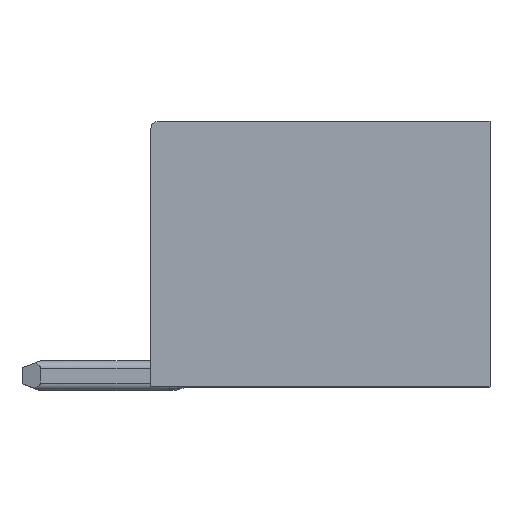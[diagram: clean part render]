
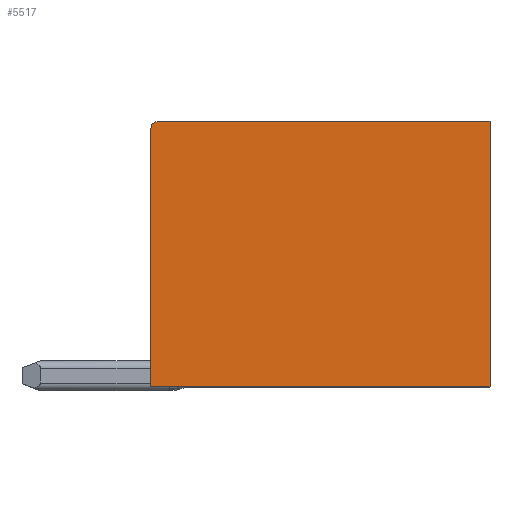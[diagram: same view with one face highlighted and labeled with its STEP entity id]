
A CAD part, top view. The second image highlights one B-rep face of the part: STEP entity #5517.
In plain terms, the highlighted planar face has unit normal (0, 0, 1).
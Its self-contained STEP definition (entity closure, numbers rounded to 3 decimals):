
#319 = AXIS2_PLACEMENT_3D ( 'NONE', #1710, #2385, #7708 ) ;
#446 = CARTESIAN_POINT ( 'NONE',  ( -1.337, 2.086, 14.227 ) ) ;
#1127 = DIRECTION ( 'NONE',  ( 1., 0., 0. ) ) ;
#1153 = CARTESIAN_POINT ( 'NONE',  ( -6.2, -2.323, 14.227 ) ) ;
#1181 = DIRECTION ( 'NONE',  ( 0., -1., 0. ) ) ;
#1336 = CARTESIAN_POINT ( 'NONE',  ( -1.137, 9.286, 14.227 ) ) ;
#1356 = LINE ( 'NONE', #5501, #4602 ) ;
#1434 = VERTEX_POINT ( 'NONE', #446 ) ;
#1579 = EDGE_LOOP ( 'NONE', ( #3597, #2864, #2416, #4658, #2877 ) ) ;
#1582 = LINE ( 'NONE', #1831, #6931 ) ;
#1710 = CARTESIAN_POINT ( 'NONE',  ( -1.137, 9.086, 14.227 ) ) ;
#1734 = VERTEX_POINT ( 'NONE', #6340 ) ;
#1831 = CARTESIAN_POINT ( 'NONE',  ( -8.271, 2.086, 14.227 ) ) ;
#2314 = LINE ( 'NONE', #6897, #3775 ) ;
#2385 = DIRECTION ( 'NONE',  ( 0., 0., 1. ) ) ;
#2416 = ORIENTED_EDGE ( 'NONE', *, *, #6088, .F. ) ;
#2573 = VERTEX_POINT ( 'NONE', #2708 ) ;
#2708 = CARTESIAN_POINT ( 'NONE',  ( 7.863, 2.086, 14.227 ) ) ;
#2864 = ORIENTED_EDGE ( 'NONE', *, *, #4526, .F. ) ;
#2877 = ORIENTED_EDGE ( 'NONE', *, *, #6727, .T. ) ;
#3597 = ORIENTED_EDGE ( 'NONE', *, *, #5448, .T. ) ;
#3775 = VECTOR ( 'NONE', #4200, 1000. ) ;
#3903 = VECTOR ( 'NONE', #5729, 1000. ) ;
#3945 = CIRCLE ( 'NONE', #319, 0.2 ) ;
#4087 = VERTEX_POINT ( 'NONE', #1336 ) ;
#4200 = DIRECTION ( 'NONE',  ( 0., -1., 0. ) ) ;
#4526 = EDGE_CURVE ( 'NONE', #5871, #2573, #6738, .T. ) ;
#4602 = VECTOR ( 'NONE', #6820, 1000. ) ;
#4658 = ORIENTED_EDGE ( 'NONE', *, *, #7912, .T. ) ;
#5119 = CARTESIAN_POINT ( 'NONE',  ( 7.863, 2.086, 14.227 ) ) ;
#5448 = EDGE_CURVE ( 'NONE', #1434, #2573, #1582, .T. ) ;
#5501 = CARTESIAN_POINT ( 'NONE',  ( -1.337, 9.286, 14.227 ) ) ;
#5517 = ADVANCED_FACE ( 'NONE', ( #8369 ), #7117, .T. ) ;
#5729 = DIRECTION ( 'NONE',  ( 0., -1., 0. ) ) ;
#5871 = VERTEX_POINT ( 'NONE', #6552 ) ;
#6088 = EDGE_CURVE ( 'NONE', #4087, #5871, #1356, .T. ) ;
#6150 = AXIS2_PLACEMENT_3D ( 'NONE', #1153, #7143, #1181 ) ;
#6340 = CARTESIAN_POINT ( 'NONE',  ( -1.337, 9.086, 14.227 ) ) ;
#6552 = CARTESIAN_POINT ( 'NONE',  ( 7.863, 9.286, 14.227 ) ) ;
#6727 = EDGE_CURVE ( 'NONE', #1734, #1434, #2314, .T. ) ;
#6738 = LINE ( 'NONE', #5119, #3903 ) ;
#6820 = DIRECTION ( 'NONE',  ( 1., 0., 0. ) ) ;
#6897 = CARTESIAN_POINT ( 'NONE',  ( -1.337, 9.086, 14.227 ) ) ;
#6931 = VECTOR ( 'NONE', #1127, 1000. ) ;
#7117 = PLANE ( 'NONE',  #6150 ) ;
#7143 = DIRECTION ( 'NONE',  ( 0., 0., 1. ) ) ;
#7708 = DIRECTION ( 'NONE',  ( 0., -1., 0. ) ) ;
#7912 = EDGE_CURVE ( 'NONE', #4087, #1734, #3945, .T. ) ;
#8369 = FACE_OUTER_BOUND ( 'NONE', #1579, .T. ) ;
